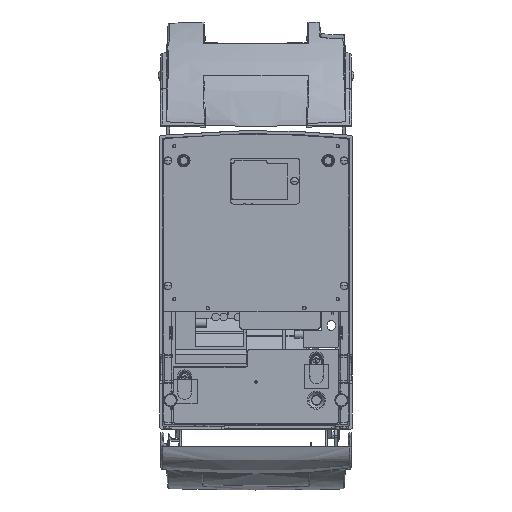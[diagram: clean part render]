
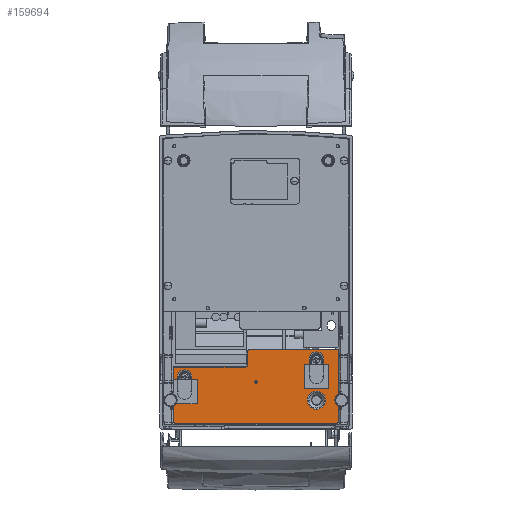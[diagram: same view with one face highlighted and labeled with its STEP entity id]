
A CAD part, front view. The second image highlights one B-rep face of the part: STEP entity #159694.
In plain terms, the highlighted planar face has unit normal (0, -1, 0).
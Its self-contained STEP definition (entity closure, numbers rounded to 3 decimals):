
#149554=CARTESIAN_POINT('',(0.,-56.4,-104.));
#149555=DIRECTION('',(0.,1.,0.));
#149556=DIRECTION('',(-1.,0.,0.));
#149557=AXIS2_PLACEMENT_3D('',#149554,#149555,#149556);
#149559=CARTESIAN_POINT('',(0.,-56.4,-104.));
#149560=DIRECTION('',(0.,1.,0.));
#149561=DIRECTION('',(1.,0.,0.));
#149562=AXIS2_PLACEMENT_3D('',#149559,#149560,#149561);
#149564=CARTESIAN_POINT('',(50.2,-56.4,-119.));
#149565=DIRECTION('',(0.,1.,0.));
#149566=DIRECTION('',(1.,0.,0.));
#149567=AXIS2_PLACEMENT_3D('',#149564,#149565,#149566);
#149569=CARTESIAN_POINT('',(50.2,-56.4,-119.));
#149570=DIRECTION('',(0.,1.,0.));
#149571=DIRECTION('',(-1.,0.,0.));
#149572=AXIS2_PLACEMENT_3D('',#149569,#149570,#149571);
#149574=DIRECTION('',(0.,0.,1.));
#149575=VECTOR('',#149574,14.);
#149576=CARTESIAN_POINT('',(44.098,-56.4,-99.));
#149577=LINE('',#149576,#149575);
#149578=CARTESIAN_POINT('',(50.2,-56.4,-99.));
#149579=DIRECTION('',(0.,1.,0.));
#149580=DIRECTION('',(1.,0.,0.));
#149581=AXIS2_PLACEMENT_3D('',#149578,#149579,#149580);
#149583=DIRECTION('',(0.,0.,-1.));
#149584=VECTOR('',#149583,14.);
#149585=CARTESIAN_POINT('',(56.302,-56.4,-85.));
#149586=LINE('',#149585,#149584);
#149587=CARTESIAN_POINT('',(50.2,-56.4,-85.));
#149588=DIRECTION('',(0.,-1.,0.));
#149589=DIRECTION('',(1.,0.,0.));
#149590=AXIS2_PLACEMENT_3D('',#149587,#149588,#149589);
#149592=CARTESIAN_POINT('',(-59.3,-56.4,-112.));
#149593=DIRECTION('',(0.,1.,0.));
#149594=DIRECTION('',(1.,0.,0.));
#149595=AXIS2_PLACEMENT_3D('',#149592,#149593,#149594);
#149597=DIRECTION('',(0.,0.,-1.));
#149598=VECTOR('',#149597,12.);
#149599=CARTESIAN_POINT('',(-53.198,-56.4,-100.));
#149600=LINE('',#149599,#149598);
#149601=CARTESIAN_POINT('',(-59.3,-56.4,-100.));
#149602=DIRECTION('',(0.,-1.,0.));
#149603=DIRECTION('',(1.,0.,0.));
#149604=AXIS2_PLACEMENT_3D('',#149601,#149602,#149603);
#149606=DIRECTION('',(0.,0.,1.));
#149607=VECTOR('',#149606,12.);
#149608=CARTESIAN_POINT('',(-65.402,-56.4,-112.));
#149609=LINE('',#149608,#149607);
#149839=DIRECTION('',(-1.,0.,0.));
#149840=VECTOR('',#149839,0.2);
#149841=CARTESIAN_POINT('',(68.7,-56.4,-137.5));
#149842=LINE('',#149841,#149840);
#149843=CARTESIAN_POINT('',(68.5,-56.4,-138.));
#149844=DIRECTION('',(0.,-1.,0.));
#149845=DIRECTION('',(0.,0.,1.));
#149846=AXIS2_PLACEMENT_3D('',#149843,#149844,#149845);
#149848=DIRECTION('',(0.,0.,1.));
#149849=VECTOR('',#149848,0.2);
#149850=CARTESIAN_POINT('',(68.,-56.4,-138.2));
#149851=LINE('',#149850,#149849);
#149852=DIRECTION('',(-1.,0.,0.));
#149853=VECTOR('',#149852,136.);
#149854=CARTESIAN_POINT('',(68.,-56.4,-138.2));
#149855=LINE('',#149854,#149853);
#149856=DIRECTION('',(0.,0.,1.));
#149857=VECTOR('',#149856,0.2);
#149858=CARTESIAN_POINT('',(-68.,-56.4,-138.2));
#149859=LINE('',#149858,#149857);
#149860=CARTESIAN_POINT('',(-68.5,-56.4,-138.));
#149861=DIRECTION('',(0.,-1.,0.));
#149862=DIRECTION('',(1.,0.,0.));
#149863=AXIS2_PLACEMENT_3D('',#149860,#149861,#149862);
#149865=DIRECTION('',(-1.,0.,0.));
#149866=VECTOR('',#149865,0.2);
#149867=CARTESIAN_POINT('',(-68.5,-56.4,-137.5));
#149868=LINE('',#149867,#149866);
#149869=DIRECTION('',(0.,0.,1.));
#149870=VECTOR('',#149869,46.);
#149871=CARTESIAN_POINT('',(-68.7,-56.4,-137.5));
#149872=LINE('',#149871,#149870);
#149873=DIRECTION('',(1.,0.,0.));
#149874=VECTOR('',#149873,59.8);
#149875=CARTESIAN_POINT('',(-68.7,-56.4,-91.5));
#149876=LINE('',#149875,#149874);
#149877=CARTESIAN_POINT('',(-8.9,-56.4,-89.5));
#149878=DIRECTION('',(0.,-1.,0.));
#149879=DIRECTION('',(0.,0.,-1.));
#149880=AXIS2_PLACEMENT_3D('',#149877,#149878,#149879);
#149882=DIRECTION('',(0.,0.,-1.));
#149883=VECTOR('',#149882,11.);
#149884=CARTESIAN_POINT('',(-6.9,-56.4,-78.5));
#149885=LINE('',#149884,#149883);
#149886=DIRECTION('',(1.,0.,0.));
#149887=VECTOR('',#149886,73.6);
#149888=CARTESIAN_POINT('',(-4.9,-56.4,-76.5));
#149889=LINE('',#149888,#149887);
#149890=DIRECTION('',(0.,0.,-1.));
#149891=VECTOR('',#149890,61.);
#149892=CARTESIAN_POINT('',(68.7,-56.4,-76.5));
#149893=LINE('',#149892,#149891);
#154399=CARTESIAN_POINT('',(-4.9,-56.4,-78.5));
#154400=DIRECTION('',(0.,-1.,0.));
#154401=DIRECTION('',(0.,0.,1.));
#154402=AXIS2_PLACEMENT_3D('',#154399,#154400,#154401);
#157093=CARTESIAN_POINT('',(68.,-56.4,-138.2));
#157094=VERTEX_POINT('',#157093);
#157095=CARTESIAN_POINT('',(-68.,-56.4,-138.2));
#157096=VERTEX_POINT('',#157095);
#157206=CARTESIAN_POINT('',(-68.7,-56.4,-91.5));
#157208=VERTEX_POINT('',#157206);
#157215=CARTESIAN_POINT('',(68.7,-56.4,-137.5));
#157216=CARTESIAN_POINT('',(68.7,-56.4,-76.5));
#157217=VERTEX_POINT('',#157215);
#157218=VERTEX_POINT('',#157216);
#157221=CARTESIAN_POINT('',(-68.7,-56.4,-137.5));
#157222=VERTEX_POINT('',#157221);
#158027=CARTESIAN_POINT('',(-53.198,-56.4,-112.));
#158028=CARTESIAN_POINT('',(-65.402,-56.4,-112.));
#158029=VERTEX_POINT('',#158027);
#158030=VERTEX_POINT('',#158028);
#158088=CARTESIAN_POINT('',(-8.9,-56.4,-91.5));
#158090=VERTEX_POINT('',#158088);
#158092=CARTESIAN_POINT('',(-6.9,-56.4,-89.5));
#158094=VERTEX_POINT('',#158092);
#158095=CARTESIAN_POINT('',(-4.9,-56.4,-76.5));
#158097=VERTEX_POINT('',#158095);
#158099=CARTESIAN_POINT('',(-6.9,-56.4,-78.5));
#158100=VERTEX_POINT('',#158099);
#158186=CARTESIAN_POINT('',(68.,-56.4,-138.));
#158188=VERTEX_POINT('',#158186);
#158190=CARTESIAN_POINT('',(-68.,-56.4,-138.));
#158192=VERTEX_POINT('',#158190);
#158195=CARTESIAN_POINT('',(68.5,-56.4,-137.5));
#158196=VERTEX_POINT('',#158195);
#158199=CARTESIAN_POINT('',(-68.5,-56.4,-137.5));
#158200=VERTEX_POINT('',#158199);
#158573=CARTESIAN_POINT('',(-1.,-56.4,-104.));
#158574=CARTESIAN_POINT('',(1.,-56.4,-104.));
#158575=VERTEX_POINT('',#158573);
#158576=VERTEX_POINT('',#158574);
#159155=CARTESIAN_POINT('',(57.674,-56.4,-119.));
#159156=CARTESIAN_POINT('',(42.726,-56.4,-119.));
#159157=VERTEX_POINT('',#159155);
#159158=VERTEX_POINT('',#159156);
#159219=CARTESIAN_POINT('',(-65.402,-56.4,-100.));
#159220=VERTEX_POINT('',#159219);
#159221=CARTESIAN_POINT('',(-53.198,-56.4,-100.));
#159222=VERTEX_POINT('',#159221);
#159279=CARTESIAN_POINT('',(44.098,-56.4,-99.));
#159280=CARTESIAN_POINT('',(44.098,-56.4,-85.));
#159281=VERTEX_POINT('',#159279);
#159282=VERTEX_POINT('',#159280);
#159283=CARTESIAN_POINT('',(56.302,-56.4,-85.));
#159284=VERTEX_POINT('',#159283);
#159285=CARTESIAN_POINT('',(56.302,-56.4,-99.));
#159286=VERTEX_POINT('',#159285);
#159627=CARTESIAN_POINT('',(0.,-56.4,96.));
#159628=DIRECTION('',(0.,1.,0.));
#159629=DIRECTION('',(1.,0.,0.));
#159630=AXIS2_PLACEMENT_3D('',#159627,#159628,#159629);
#159631=PLANE('',#159630);
#159633=ORIENTED_EDGE('',*,*,#159632,.T.);
#159635=ORIENTED_EDGE('',*,*,#159634,.T.);
#159637=ORIENTED_EDGE('',*,*,#159636,.F.);
#159639=ORIENTED_EDGE('',*,*,#159638,.T.);
#159641=ORIENTED_EDGE('',*,*,#159640,.T.);
#159643=ORIENTED_EDGE('',*,*,#159642,.T.);
#159645=ORIENTED_EDGE('',*,*,#159644,.T.);
#159647=ORIENTED_EDGE('',*,*,#159646,.T.);
#159649=ORIENTED_EDGE('',*,*,#159648,.T.);
#159651=ORIENTED_EDGE('',*,*,#159650,.T.);
#159653=ORIENTED_EDGE('',*,*,#159652,.F.);
#159655=ORIENTED_EDGE('',*,*,#159654,.F.);
#159657=ORIENTED_EDGE('',*,*,#159656,.T.);
#159659=ORIENTED_EDGE('',*,*,#159658,.T.);
#159660=EDGE_LOOP('',(#159633,#159635,#159637,#159639,#159641,#159643,#159645,
#159647,#159649,#159651,#159653,#159655,#159657,#159659));
#159661=FACE_OUTER_BOUND('',#159660,.F.);
#159663=ORIENTED_EDGE('',*,*,#159662,.F.);
#159665=ORIENTED_EDGE('',*,*,#159664,.F.);
#159666=EDGE_LOOP('',(#159663,#159665));
#159667=FACE_BOUND('',#159666,.F.);
#159669=ORIENTED_EDGE('',*,*,#159668,.F.);
#159671=ORIENTED_EDGE('',*,*,#159670,.F.);
#159672=EDGE_LOOP('',(#159669,#159671));
#159673=FACE_BOUND('',#159672,.F.);
#159675=ORIENTED_EDGE('',*,*,#159674,.F.);
#159677=ORIENTED_EDGE('',*,*,#159676,.F.);
#159679=ORIENTED_EDGE('',*,*,#159678,.F.);
#159681=ORIENTED_EDGE('',*,*,#159680,.T.);
#159682=EDGE_LOOP('',(#159675,#159677,#159679,#159681));
#159683=FACE_BOUND('',#159682,.F.);
#159685=ORIENTED_EDGE('',*,*,#159684,.F.);
#159687=ORIENTED_EDGE('',*,*,#159686,.F.);
#159689=ORIENTED_EDGE('',*,*,#159688,.T.);
#159691=ORIENTED_EDGE('',*,*,#159690,.F.);
#159692=EDGE_LOOP('',(#159685,#159687,#159689,#159691));
#159693=FACE_BOUND('',#159692,.F.);
#149558=CIRCLE('',#149557,1.);
#149563=CIRCLE('',#149562,1.);
#149568=CIRCLE('',#149567,7.474);
#149573=CIRCLE('',#149572,7.474);
#149582=CIRCLE('',#149581,6.102);
#149591=CIRCLE('',#149590,6.102);
#149596=CIRCLE('',#149595,6.102);
#149605=CIRCLE('',#149604,6.102);
#149847=CIRCLE('',#149846,0.5);
#149864=CIRCLE('',#149863,0.5);
#149881=CIRCLE('',#149880,2.);
#154403=CIRCLE('',#154402,2.);
#159632=EDGE_CURVE('',#157217,#158196,#149842,.T.);
#159634=EDGE_CURVE('',#158196,#158188,#149847,.T.);
#159636=EDGE_CURVE('',#157094,#158188,#149851,.T.);
#159638=EDGE_CURVE('',#157094,#157096,#149855,.T.);
#159640=EDGE_CURVE('',#157096,#158192,#149859,.T.);
#159642=EDGE_CURVE('',#158192,#158200,#149864,.T.);
#159644=EDGE_CURVE('',#158200,#157222,#149868,.T.);
#159646=EDGE_CURVE('',#157222,#157208,#149872,.T.);
#159648=EDGE_CURVE('',#157208,#158090,#149876,.T.);
#159650=EDGE_CURVE('',#158090,#158094,#149881,.T.);
#159652=EDGE_CURVE('',#158100,#158094,#149885,.T.);
#159654=EDGE_CURVE('',#158097,#158100,#154403,.T.);
#159656=EDGE_CURVE('',#158097,#157218,#149889,.T.);
#159658=EDGE_CURVE('',#157218,#157217,#149893,.T.);
#159662=EDGE_CURVE('',#158575,#158576,#149558,.T.);
#159664=EDGE_CURVE('',#158576,#158575,#149563,.T.);
#159668=EDGE_CURVE('',#159157,#159158,#149568,.T.);
#159670=EDGE_CURVE('',#159158,#159157,#149573,.T.);
#159674=EDGE_CURVE('',#159281,#159282,#149577,.T.);
#159676=EDGE_CURVE('',#159286,#159281,#149582,.T.);
#159678=EDGE_CURVE('',#159284,#159286,#149586,.T.);
#159680=EDGE_CURVE('',#159284,#159282,#149591,.T.);
#159684=EDGE_CURVE('',#158029,#158030,#149596,.T.);
#159686=EDGE_CURVE('',#159222,#158029,#149600,.T.);
#159688=EDGE_CURVE('',#159222,#159220,#149605,.T.);
#159690=EDGE_CURVE('',#158030,#159220,#149609,.T.);
#159694=ADVANCED_FACE('',(#159661,#159667,#159673,#159683,#159693),#159631,.F.);
